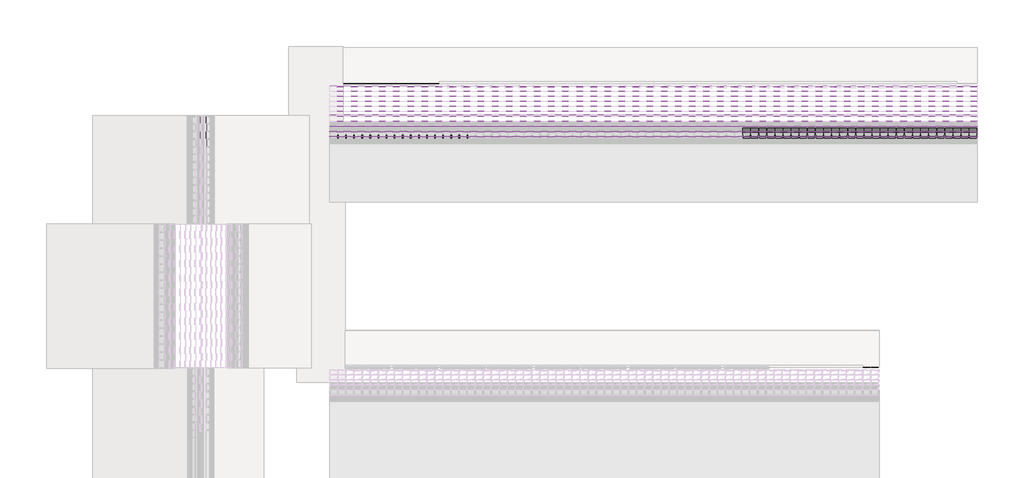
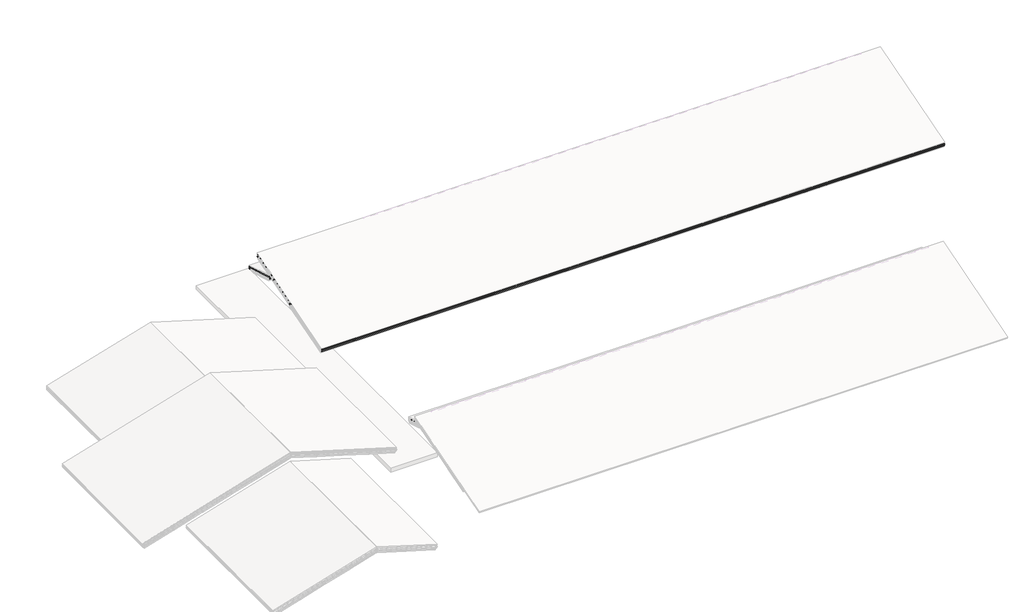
# One storey, part 55 of 57: 63 members, 57 plates.
"""IFC4 building model written with IfcOpenShell, lengths in millimetres."""

from ifc_helpers import new_model, si_unit, origin, place, context, project, spatial, transform, mapped, element, save
from components import rectangular_mullion_f14c8d41, rectangular_mullion_fa7fd158, rectangular_mullion_ffaf8763, rectangular_mullion_8b410596, rectangular_mullion_19773bea, rectangular_mullion_1995deed, rectangular_mullion_4fee4107, rectangular_mullion_38d2f0d7, rectangular_mullion_f6d95a8e, rectangular_mullion_d1940fe2, rectangular_mullion_4fc05f82, rectangular_mullion_caibro_ac6bc083, rectangular_mullion_caibro_dc4aa32d, rectangular_mullion_caibro_51e85f04, rectangular_mullion_caibro_c1b6c281, empty_system_panel_vazio_29520a4c, empty_system_panel_vazio_a4060a7b, empty_system_panel_vazio_0a59da35, empty_system_panel_vazio_61b4e04a

model = new_model("IFC4")

# Units and contexts
model_context = context("Model", 3, world=origin())
ifc_project = project(units=[si_unit("LENGTHUNIT", "METRE", prefix="MILLI")], contexts=[model_context])

# Site, building, storey
site = spatial("IfcSite", under=ifc_project)
building = spatial("IfcBuilding", under=site)
storey = spatial("IfcBuildingStorey", under=building, Name="Nível 2", Elevation=4100.0)

# Members
placement = place(None, origin())
rectangular_mullion_shape = rectangular_mullion_f14c8d41(model_context)
element("IfcMember", 1, ObjectType="Rectangular Mullion : Ripa", at=placement, inside=storey, context=model_context, shape_type="MappedRepresentation", body=[
    mapped(rectangular_mullion_shape, transform((1726.5285525, 32116.1727819, 5061.5247587), x_axis=(0.0, 0.9578262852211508, 0.2873478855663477), y_axis=(0.0, 0.2873478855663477, -0.9578262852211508), z_axis=(-1.0, 0.0, 0.0))),
])
element("IfcMember", 2, ObjectType="Rectangular Mullion : Ripa", at=placement, inside=storey, context=model_context, shape_type="MappedRepresentation", body=[
    mapped(rectangular_mullion_shape, transform((1726.5285525, 32486.5368718, 5172.6339857), x_axis=(0.0, 0.9578262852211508, 0.2873478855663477), y_axis=(0.0, 0.2873478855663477, -0.9578262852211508), z_axis=(-1.0, 0.0, 0.0))),
])
element("IfcMember", 3, ObjectType="Rectangular Mullion : Ripa", at=placement, inside=storey, context=model_context, shape_type="MappedRepresentation", body=[
    mapped(rectangular_mullion_shape, transform((1726.5285525, 32856.9009617, 5283.7432127), x_axis=(0.0, 0.9578262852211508, 0.2873478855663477), y_axis=(0.0, 0.2873478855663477, -0.9578262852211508), z_axis=(-1.0, 0.0, 0.0))),
])
element("IfcMember", 4, ObjectType="Rectangular Mullion : Ripa", at=placement, inside=storey, context=model_context, shape_type="MappedRepresentation", body=[
    mapped(rectangular_mullion_shape, transform((1726.5285525, 33227.2650516, 5394.8524396), x_axis=(0.0, 0.9578262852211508, 0.2873478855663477), y_axis=(0.0, 0.2873478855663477, -0.9578262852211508), z_axis=(-1.0, 0.0, 0.0))),
])
element("IfcMember", 5, ObjectType="Rectangular Mullion : Ripa", at=placement, inside=storey, context=model_context, shape_type="MappedRepresentation", body=[
    mapped(rectangular_mullion_shape, transform((1726.5285525, 33597.6291416, 5505.9616666), x_axis=(0.0, 0.9578262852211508, 0.2873478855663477), y_axis=(0.0, 0.2873478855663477, -0.9578262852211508), z_axis=(-1.0, 0.0, 0.0))),
])
element("IfcMember", 6, ObjectType="Rectangular Mullion : Ripa", at=placement, inside=storey, context=model_context, shape_type="MappedRepresentation", body=[
    mapped(rectangular_mullion_shape, transform((1726.5285525, 33967.9932315, 5617.0708936), x_axis=(0.0, 0.9578262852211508, 0.2873478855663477), y_axis=(0.0, 0.2873478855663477, -0.9578262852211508), z_axis=(-1.0, 0.0, 0.0))),
])
element("IfcMember", 7, ObjectType="Rectangular Mullion : Ripa", at=placement, inside=storey, context=model_context, shape_type="MappedRepresentation", body=[
    mapped(rectangular_mullion_shape, transform((1726.5285525, 34338.3573214, 5728.1801206), x_axis=(0.0, 0.9578262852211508, 0.2873478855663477), y_axis=(0.0, 0.2873478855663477, -0.9578262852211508), z_axis=(-1.0, 0.0, 0.0))),
])
element("IfcMember", 8, ObjectType="Rectangular Mullion : Ripa", at=placement, inside=storey, context=model_context, shape_type="MappedRepresentation", body=[
    mapped(rectangular_mullion_shape, transform((1726.5285525, 34708.7214113, 5839.2893475), x_axis=(0.0, 0.9578262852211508, 0.2873478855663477), y_axis=(0.0, 0.2873478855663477, -0.9578262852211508), z_axis=(-1.0, 0.0, 0.0))),
])
element("IfcMember", 9, ObjectType="Rectangular Mullion : Ripa", at=placement, inside=storey, context=model_context, shape_type="MappedRepresentation", body=[
    mapped(rectangular_mullion_shape, transform((1726.5285525, 35079.0855012, 5950.3985745), x_axis=(0.0, 0.9578262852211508, 0.2873478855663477), y_axis=(0.0, 0.2873478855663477, -0.9578262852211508), z_axis=(-1.0, 0.0, 0.0))),
])
element("IfcMember", 10, ObjectType="Rectangular Mullion : Ripa", at=placement, inside=storey, context=model_context, shape_type="MappedRepresentation", body=[
    mapped(rectangular_mullion_shape, transform((1726.5285525, 35449.4495911, 6061.5078015), x_axis=(0.0, 0.9578262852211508, 0.2873478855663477), y_axis=(0.0, 0.2873478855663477, -0.9578262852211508), z_axis=(-1.0, 0.0, 0.0))),
])
element("IfcMember", 11, ObjectType="Rectangular Mullion : Ripa", at=placement, inside=storey, context=model_context, shape_type="MappedRepresentation", body=[
    mapped(rectangular_mullion_shape, transform((1726.5285525, 35819.813681, 6172.6170285), x_axis=(0.0, 0.9578262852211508, 0.2873478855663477), y_axis=(0.0, 0.2873478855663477, -0.9578262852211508), z_axis=(-1.0, 0.0, 0.0))),
])
element("IfcMember", 12, ObjectType="Rectangular Mullion : Ripa", at=placement, inside=storey, context=model_context, shape_type="MappedRepresentation", body=[
    mapped(rectangular_mullion_shape, transform((1726.5285525, 36190.177771, 6283.7262554), x_axis=(0.0, 0.9578262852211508, 0.2873478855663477), y_axis=(0.0, 0.2873478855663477, -0.9578262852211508), z_axis=(-1.0, 0.0, 0.0))),
])
rectangular_mullion_2_shape = rectangular_mullion_fa7fd158(model_context)
element("IfcMember", 13, ObjectType="Rectangular Mullion : Ripa", at=placement, inside=storey, context=model_context, shape_type="MappedRepresentation", body=[
    mapped(rectangular_mullion_2_shape, transform((49646.9556519, 27994.2764786, 3824.9558677), x_axis=(0.0, -0.9578262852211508, -0.2873478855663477), y_axis=(0.0, 0.2873478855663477, -0.9578262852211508), z_axis=(1.0, 0.0, 0.0))),
])
element("IfcMember", 14, ObjectType="Rectangular Mullion : Ripa", at=placement, inside=storey, context=model_context, shape_type="MappedRepresentation", body=[
    mapped(rectangular_mullion_shape, transform((1726.5285525, 36560.5418609, 6394.8354824), x_axis=(0.0, 0.9578262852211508, 0.2873478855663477), y_axis=(0.0, 0.2873478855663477, -0.9578262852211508), z_axis=(-1.0, 0.0, 0.0))),
])
rectangular_mullion_3_shape = rectangular_mullion_ffaf8763(model_context)
element("IfcMember", 15, ObjectType="Rectangular Mullion : Terça", at=placement, inside=storey, context=model_context, shape_type="MappedRepresentation", body=[
    mapped(rectangular_mullion_3_shape, transform((49646.9556519, 27994.2764786, 3699.6721896), x_axis=(0.0, -0.9578262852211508, -0.2873478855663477), y_axis=(0.0, 0.2873478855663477, -0.9578262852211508), z_axis=(1.0, 0.0, 0.0))),
])
rectangular_mullion_4_shape = rectangular_mullion_8b410596(model_context)
element("IfcMember", 16, ObjectType="Rectangular Mullion : Terça", at=placement, inside=storey, context=model_context, shape_type="MappedRepresentation", body=[
    mapped(rectangular_mullion_4_shape, transform((1726.5285525, 36560.5418609, 6269.5518043), x_axis=(0.0, 0.9578262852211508, 0.2873478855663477), y_axis=(0.0, 0.2873478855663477, -0.9578262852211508), z_axis=(-1.0, 0.0, 0.0))),
])
rectangular_mullion_5_shape = rectangular_mullion_19773bea(model_context)
element("IfcMember", 17, ObjectType="Rectangular Mullion : Terça", at=placement, inside=storey, context=model_context, shape_type="MappedRepresentation", body=[
    mapped(rectangular_mullion_5_shape, transform((1726.5285525, 32277.4091697, 4984.611997), x_axis=(0.0, 0.9578262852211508, 0.2873478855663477), y_axis=(0.0, 0.2873478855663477, -0.9578262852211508), z_axis=(-1.0, 0.0, 0.0))),
])
element("IfcMember", 18, ObjectType="Rectangular Mullion : Terça", at=placement, inside=storey, context=model_context, shape_type="MappedRepresentation", body=[
    mapped(rectangular_mullion_5_shape, transform((1726.5285525, 34404.608121, 5622.7716823), x_axis=(0.0, 0.9578262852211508, 0.2873478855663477), y_axis=(0.0, 0.2873478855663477, -0.9578262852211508), z_axis=(-1.0, 0.0, 0.0))),
])
rectangular_mullion_6_shape = rectangular_mullion_1995deed(model_context)
element("IfcMember", 19, ObjectType="Rectangular Mullion : Ripa", at=placement, inside=storey, context=model_context, shape_type="MappedRepresentation", body=[
    mapped(rectangular_mullion_6_shape, transform((347.7937639, 34350.3088684, 2985.3181378), x_axis=(0.9578262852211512, 0.0, -0.287347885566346), y_axis=(-0.287347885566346, 0.0, -0.9578262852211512), z_axis=(0.0, 1.0, 0.0))),
])
rectangular_mullion_7_shape = rectangular_mullion_4fee4107(model_context)
element("IfcMember", 20, ObjectType="Rectangular Mullion : Terça", at=placement, inside=storey, context=model_context, shape_type="MappedRepresentation", body=[
    mapped(rectangular_mullion_7_shape, transform((347.7937639, 34350.3088684, 2860.0344596), x_axis=(0.9578262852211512, 0.0, -0.287347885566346), y_axis=(-0.287347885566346, 0.0, -0.9578262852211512), z_axis=(0.0, 1.0, 0.0))),
])
rectangular_mullion_8_shape = rectangular_mullion_38d2f0d7(model_context)
element("IfcMember", 21, ObjectType="Rectangular Mullion : Ripa", at=placement, inside=storey, context=model_context, shape_type="MappedRepresentation", body=[
    mapped(rectangular_mullion_8_shape, transform((42376.5296631, 17994.1952417, 3744.0973018), x_axis=(0.0, -0.9578262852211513, 0.2873478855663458), y_axis=(0.0, -0.2873478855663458, -0.9578262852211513), z_axis=(1.0, 0.0, 0.0))),
])
element("IfcMember", 22, ObjectType="Rectangular Mullion : Ripa", at=placement, inside=storey, context=model_context, shape_type="MappedRepresentation", body=[
    mapped(rectangular_mullion_8_shape, transform((42376.5296631, 17623.8303384, 3855.2067728), x_axis=(0.0, -0.9578262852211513, 0.2873478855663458), y_axis=(0.0, -0.2873478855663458, -0.9578262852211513), z_axis=(1.0, 0.0, 0.0))),
])
element("IfcMember", 23, ObjectType="Rectangular Mullion : Ripa", at=placement, inside=storey, context=model_context, shape_type="MappedRepresentation", body=[
    mapped(rectangular_mullion_8_shape, transform((42376.5296631, 17253.4654352, 3966.3162438), x_axis=(0.0, -0.9578262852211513, 0.2873478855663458), y_axis=(0.0, -0.2873478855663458, -0.9578262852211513), z_axis=(1.0, 0.0, 0.0))),
])
element("IfcMember", 24, ObjectType="Rectangular Mullion : Ripa", at=placement, inside=storey, context=model_context, shape_type="MappedRepresentation", body=[
    mapped(rectangular_mullion_8_shape, transform((42376.5296631, 16883.1005319, 4077.4257148), x_axis=(0.0, -0.9578262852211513, 0.2873478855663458), y_axis=(0.0, -0.2873478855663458, -0.9578262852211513), z_axis=(1.0, 0.0, 0.0))),
])
element("IfcMember", 25, ObjectType="Rectangular Mullion : Ripa", at=placement, inside=storey, context=model_context, shape_type="MappedRepresentation", body=[
    mapped(rectangular_mullion_8_shape, transform((42376.5296631, 16512.7356287, 4188.5351857), x_axis=(0.0, -0.9578262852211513, 0.2873478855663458), y_axis=(0.0, -0.2873478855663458, -0.9578262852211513), z_axis=(1.0, 0.0, 0.0))),
])
element("IfcMember", 26, ObjectType="Rectangular Mullion : Ripa", at=placement, inside=storey, context=model_context, shape_type="MappedRepresentation", body=[
    mapped(rectangular_mullion_8_shape, transform((42376.5296631, 16142.3707254, 4299.6446567), x_axis=(0.0, -0.9578262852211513, 0.2873478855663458), y_axis=(0.0, -0.2873478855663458, -0.9578262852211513), z_axis=(1.0, 0.0, 0.0))),
])
rectangular_mullion_9_shape = rectangular_mullion_f6d95a8e(model_context)
element("IfcMember", 27, ObjectType="Rectangular Mullion : Terça", at=placement, inside=storey, context=model_context, shape_type="MappedRepresentation", body=[
    mapped(rectangular_mullion_9_shape, transform((42376.5296631, 17092.6384279, 3892.1683792), x_axis=(0.0, -0.9578262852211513, 0.2873478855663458), y_axis=(0.0, -0.2873478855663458, -0.9578262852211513), z_axis=(1.0, 0.0, 0.0))),
])
rectangular_mullion_10_shape = rectangular_mullion_d1940fe2(model_context)
element("IfcMember", 28, ObjectType="Rectangular Mullion : Ripa", at=placement, inside=storey, context=model_context, shape_type="MappedRepresentation", body=[
    mapped(rectangular_mullion_10_shape, transform((2726.5285525, 39372.3282031, 3330.3181378), x_axis=(0.0, 0.957826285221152, -0.28734788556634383), y_axis=(0.0, -0.28734788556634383, -0.957826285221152), z_axis=(-1.0, 0.0, 0.0))),
])
rectangular_mullion_11_shape = rectangular_mullion_4fc05f82(model_context)
element("IfcMember", 29, ObjectType="Rectangular Mullion : Terça", at=placement, inside=storey, context=model_context, shape_type="MappedRepresentation", body=[
    mapped(rectangular_mullion_11_shape, transform((2726.5285525, 39372.3282031, 3205.0344596), x_axis=(0.0, 0.957826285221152, -0.28734788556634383), y_axis=(0.0, -0.28734788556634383, -0.957826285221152), z_axis=(-1.0, 0.0, 0.0))),
])
rectangular_mullion_caibro_shape = rectangular_mullion_caibro_ac6bc083(model_context)
element("IfcMember", 30, ObjectType="Rectangular Mullion : Caibro", at=placement, inside=storey, context=model_context, shape_type="MappedRepresentation", body=[
    mapped(rectangular_mullion_caibro_shape, transform((2349.9088915, 36560.5418609, 6394.8354824), x_axis=(1.0, 0.0, 0.0), y_axis=(0.0, 0.2873478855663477, -0.9578262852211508), z_axis=(0.0, 0.9578262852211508, 0.2873478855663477))),
])
element("IfcMember", 31, ObjectType="Rectangular Mullion : Caibro", at=placement, inside=storey, context=model_context, shape_type="MappedRepresentation", body=[
    mapped(rectangular_mullion_caibro_shape, transform((2948.2892302, 36560.5418609, 6394.8354824), x_axis=(1.0, 0.0, 0.0), y_axis=(0.0, 0.2873478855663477, -0.9578262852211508), z_axis=(0.0, 0.9578262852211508, 0.2873478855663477))),
])
element("IfcMember", 32, ObjectType="Rectangular Mullion : Caibro", at=placement, inside=storey, context=model_context, shape_type="MappedRepresentation", body=[
    mapped(rectangular_mullion_caibro_shape, transform((3546.669569, 36560.5418609, 6394.8354824), x_axis=(1.0, 0.0, 0.0), y_axis=(0.0, 0.2873478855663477, -0.9578262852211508), z_axis=(0.0, 0.9578262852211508, 0.2873478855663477))),
])
element("IfcMember", 33, ObjectType="Rectangular Mullion : Caibro", at=placement, inside=storey, context=model_context, shape_type="MappedRepresentation", body=[
    mapped(rectangular_mullion_caibro_shape, transform((4145.0499077, 36560.5418609, 6394.8354824), x_axis=(1.0, 0.0, 0.0), y_axis=(0.0, 0.2873478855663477, -0.9578262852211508), z_axis=(0.0, 0.9578262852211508, 0.2873478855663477))),
])
element("IfcMember", 34, ObjectType="Rectangular Mullion : Caibro", at=placement, inside=storey, context=model_context, shape_type="MappedRepresentation", body=[
    mapped(rectangular_mullion_caibro_shape, transform((4743.4302465, 36560.5418609, 6394.8354824), x_axis=(1.0, 0.0, 0.0), y_axis=(0.0, 0.2873478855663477, -0.9578262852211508), z_axis=(0.0, 0.9578262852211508, 0.2873478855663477))),
])
element("IfcMember", 35, ObjectType="Rectangular Mullion : Caibro", at=placement, inside=storey, context=model_context, shape_type="MappedRepresentation", body=[
    mapped(rectangular_mullion_caibro_shape, transform((5341.8105852, 36560.5418609, 6394.8354824), x_axis=(1.0, 0.0, 0.0), y_axis=(0.0, 0.2873478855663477, -0.9578262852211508), z_axis=(0.0, 0.9578262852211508, 0.2873478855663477))),
])
element("IfcMember", 36, ObjectType="Rectangular Mullion : Caibro", at=placement, inside=storey, context=model_context, shape_type="MappedRepresentation", body=[
    mapped(rectangular_mullion_caibro_shape, transform((5940.1909239, 36560.5418609, 6394.8354824), x_axis=(1.0, 0.0, 0.0), y_axis=(0.0, 0.2873478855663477, -0.9578262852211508), z_axis=(0.0, 0.9578262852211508, 0.2873478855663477))),
])
element("IfcMember", 37, ObjectType="Rectangular Mullion : Caibro", at=placement, inside=storey, context=model_context, shape_type="MappedRepresentation", body=[
    mapped(rectangular_mullion_caibro_shape, transform((6538.5712627, 36560.5418609, 6394.8354824), x_axis=(1.0, 0.0, 0.0), y_axis=(0.0, 0.2873478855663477, -0.9578262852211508), z_axis=(0.0, 0.9578262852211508, 0.2873478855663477))),
])
element("IfcMember", 38, ObjectType="Rectangular Mullion : Caibro", at=placement, inside=storey, context=model_context, shape_type="MappedRepresentation", body=[
    mapped(rectangular_mullion_caibro_shape, transform((7136.9516014, 36560.5418609, 6394.8354824), x_axis=(1.0, 0.0, 0.0), y_axis=(0.0, 0.2873478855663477, -0.9578262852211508), z_axis=(0.0, 0.9578262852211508, 0.2873478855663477))),
])
element("IfcMember", 39, ObjectType="Rectangular Mullion : Caibro", at=placement, inside=storey, context=model_context, shape_type="MappedRepresentation", body=[
    mapped(rectangular_mullion_caibro_shape, transform((7735.3319401, 36560.5418609, 6394.8354824), x_axis=(1.0, 0.0, 0.0), y_axis=(0.0, 0.2873478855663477, -0.9578262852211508), z_axis=(0.0, 0.9578262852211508, 0.2873478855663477))),
])
element("IfcMember", 40, ObjectType="Rectangular Mullion : Caibro", at=placement, inside=storey, context=model_context, shape_type="MappedRepresentation", body=[
    mapped(rectangular_mullion_caibro_shape, transform((8333.7122789, 36560.5418609, 6394.8354824), x_axis=(1.0, 0.0, 0.0), y_axis=(0.0, 0.2873478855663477, -0.9578262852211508), z_axis=(0.0, 0.9578262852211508, 0.2873478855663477))),
])
element("IfcMember", 41, ObjectType="Rectangular Mullion : Caibro", at=placement, inside=storey, context=model_context, shape_type="MappedRepresentation", body=[
    mapped(rectangular_mullion_caibro_shape, transform((8932.0926176, 36560.5418609, 6394.8354824), x_axis=(1.0, 0.0, 0.0), y_axis=(0.0, 0.2873478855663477, -0.9578262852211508), z_axis=(0.0, 0.9578262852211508, 0.2873478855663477))),
])
element("IfcMember", 42, ObjectType="Rectangular Mullion : Caibro", at=placement, inside=storey, context=model_context, shape_type="MappedRepresentation", body=[
    mapped(rectangular_mullion_caibro_shape, transform((9530.4729563, 36560.5418609, 6394.8354824), x_axis=(1.0, 0.0, 0.0), y_axis=(0.0, 0.2873478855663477, -0.9578262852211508), z_axis=(0.0, 0.9578262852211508, 0.2873478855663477))),
])
element("IfcMember", 43, ObjectType="Rectangular Mullion : Caibro", at=placement, inside=storey, context=model_context, shape_type="MappedRepresentation", body=[
    mapped(rectangular_mullion_caibro_shape, transform((10128.8532951, 36560.5418609, 6394.8354824), x_axis=(1.0, 0.0, 0.0), y_axis=(0.0, 0.2873478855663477, -0.9578262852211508), z_axis=(0.0, 0.9578262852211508, 0.2873478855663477))),
])
element("IfcMember", 44, ObjectType="Rectangular Mullion : Caibro", at=placement, inside=storey, context=model_context, shape_type="MappedRepresentation", body=[
    mapped(rectangular_mullion_caibro_shape, transform((10727.2336338, 36560.5418609, 6394.8354824), x_axis=(1.0, 0.0, 0.0), y_axis=(0.0, 0.2873478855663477, -0.9578262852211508), z_axis=(0.0, 0.9578262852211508, 0.2873478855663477))),
])
element("IfcMember", 45, ObjectType="Rectangular Mullion : Caibro", at=placement, inside=storey, context=model_context, shape_type="MappedRepresentation", body=[
    mapped(rectangular_mullion_caibro_shape, transform((11325.6139725, 36560.5418609, 6394.8354824), x_axis=(1.0, 0.0, 0.0), y_axis=(0.0, 0.2873478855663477, -0.9578262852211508), z_axis=(0.0, 0.9578262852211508, 0.2873478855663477))),
])
element("IfcMember", 46, ObjectType="Rectangular Mullion : Caibro", at=placement, inside=storey, context=model_context, shape_type="MappedRepresentation", body=[
    mapped(rectangular_mullion_caibro_shape, transform((11923.9943113, 36560.5418609, 6394.8354824), x_axis=(1.0, 0.0, 0.0), y_axis=(0.0, 0.2873478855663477, -0.9578262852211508), z_axis=(0.0, 0.9578262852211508, 0.2873478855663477))),
])
rectangular_mullion_caibro_2_shape = rectangular_mullion_caibro_dc4aa32d(model_context)
element("IfcMember", 47, ObjectType="Rectangular Mullion : Caibro", at=placement, inside=storey, context=model_context, shape_type="MappedRepresentation", body=[
    mapped(rectangular_mullion_caibro_2_shape, transform((2726.5285525, 36776.0629917, 4109.1977012), x_axis=(-1.0, 0.0, 0.0), y_axis=(0.0, -0.2873478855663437, -0.9578262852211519), z_axis=(0.0, -0.9578262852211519, 0.2873478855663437))),
])
rectangular_mullion_caibro_3_shape = rectangular_mullion_caibro_51e85f04(model_context)
element("IfcMember", 48, ObjectType="Rectangular Mullion : Caibro", at=placement, inside=storey, context=model_context, shape_type="MappedRepresentation", body=[
    mapped(rectangular_mullion_caibro_3_shape, transform((11650.9767361, 36776.0629917, 4109.1977012), x_axis=(-1.0, 0.0, 0.0), y_axis=(0.0, -0.2873478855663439, -0.9578262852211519), z_axis=(0.0, -0.9578262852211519, 0.2873478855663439))),
])
element("IfcMember", 49, ObjectType="Rectangular Mullion : Caibro", at=placement, inside=storey, context=model_context, shape_type="MappedRepresentation", body=[
    mapped(rectangular_mullion_caibro_3_shape, transform((11057.6801905, 36776.0629917, 4109.1977012), x_axis=(-1.0, 0.0, 0.0), y_axis=(0.0, -0.2873478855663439, -0.9578262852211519), z_axis=(0.0, -0.9578262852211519, 0.2873478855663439))),
])
element("IfcMember", 50, ObjectType="Rectangular Mullion : Caibro", at=placement, inside=storey, context=model_context, shape_type="MappedRepresentation", body=[
    mapped(rectangular_mullion_caibro_3_shape, transform((10464.383645, 36776.0629917, 4109.1977012), x_axis=(-1.0, 0.0, 0.0), y_axis=(0.0, -0.2873478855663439, -0.9578262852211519), z_axis=(0.0, -0.9578262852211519, 0.2873478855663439))),
])
element("IfcMember", 51, ObjectType="Rectangular Mullion : Caibro", at=placement, inside=storey, context=model_context, shape_type="MappedRepresentation", body=[
    mapped(rectangular_mullion_caibro_3_shape, transform((9871.0870994, 36776.0629917, 4109.1977012), x_axis=(-1.0, 0.0, 0.0), y_axis=(0.0, -0.2873478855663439, -0.9578262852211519), z_axis=(0.0, -0.9578262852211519, 0.2873478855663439))),
])
element("IfcMember", 52, ObjectType="Rectangular Mullion : Caibro", at=placement, inside=storey, context=model_context, shape_type="MappedRepresentation", body=[
    mapped(rectangular_mullion_caibro_3_shape, transform((9277.7905539, 36776.0629917, 4109.1977012), x_axis=(-1.0, 0.0, 0.0), y_axis=(0.0, -0.2873478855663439, -0.9578262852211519), z_axis=(0.0, -0.9578262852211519, 0.2873478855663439))),
])
element("IfcMember", 53, ObjectType="Rectangular Mullion : Caibro", at=placement, inside=storey, context=model_context, shape_type="MappedRepresentation", body=[
    mapped(rectangular_mullion_caibro_3_shape, transform((8684.4940083, 36776.0629917, 4109.1977012), x_axis=(-1.0, 0.0, 0.0), y_axis=(0.0, -0.2873478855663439, -0.9578262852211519), z_axis=(0.0, -0.9578262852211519, 0.2873478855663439))),
])
element("IfcMember", 54, ObjectType="Rectangular Mullion : Caibro", at=placement, inside=storey, context=model_context, shape_type="MappedRepresentation", body=[
    mapped(rectangular_mullion_caibro_3_shape, transform((8091.1974628, 36776.0629917, 4109.1977012), x_axis=(-1.0, 0.0, 0.0), y_axis=(0.0, -0.2873478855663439, -0.9578262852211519), z_axis=(0.0, -0.9578262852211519, 0.2873478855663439))),
])
element("IfcMember", 55, ObjectType="Rectangular Mullion : Caibro", at=placement, inside=storey, context=model_context, shape_type="MappedRepresentation", body=[
    mapped(rectangular_mullion_caibro_3_shape, transform((7497.9009172, 36776.0629917, 4109.1977012), x_axis=(-1.0, 0.0, 0.0), y_axis=(0.0, -0.2873478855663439, -0.9578262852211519), z_axis=(0.0, -0.9578262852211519, 0.2873478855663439))),
])
element("IfcMember", 56, ObjectType="Rectangular Mullion : Caibro", at=placement, inside=storey, context=model_context, shape_type="MappedRepresentation", body=[
    mapped(rectangular_mullion_caibro_3_shape, transform((6904.6043717, 36776.0629917, 4109.1977012), x_axis=(-1.0, 0.0, 0.0), y_axis=(0.0, -0.2873478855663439, -0.9578262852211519), z_axis=(0.0, -0.9578262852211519, 0.2873478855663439))),
])
element("IfcMember", 57, ObjectType="Rectangular Mullion : Caibro", at=placement, inside=storey, context=model_context, shape_type="MappedRepresentation", body=[
    mapped(rectangular_mullion_caibro_3_shape, transform((6311.3078261, 36776.0629917, 4109.1977012), x_axis=(-1.0, 0.0, 0.0), y_axis=(0.0, -0.2873478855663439, -0.9578262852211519), z_axis=(0.0, -0.9578262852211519, 0.2873478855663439))),
])
element("IfcMember", 58, ObjectType="Rectangular Mullion : Caibro", at=placement, inside=storey, context=model_context, shape_type="MappedRepresentation", body=[
    mapped(rectangular_mullion_caibro_3_shape, transform((5718.0112805, 36776.0629917, 4109.1977012), x_axis=(-1.0, 0.0, 0.0), y_axis=(0.0, -0.2873478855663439, -0.9578262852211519), z_axis=(0.0, -0.9578262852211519, 0.2873478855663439))),
])
element("IfcMember", 59, ObjectType="Rectangular Mullion : Caibro", at=placement, inside=storey, context=model_context, shape_type="MappedRepresentation", body=[
    mapped(rectangular_mullion_caibro_3_shape, transform((5124.714735, 36776.0629917, 4109.1977012), x_axis=(-1.0, 0.0, 0.0), y_axis=(0.0, -0.2873478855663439, -0.9578262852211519), z_axis=(0.0, -0.9578262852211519, 0.2873478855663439))),
])
element("IfcMember", 60, ObjectType="Rectangular Mullion : Caibro", at=placement, inside=storey, context=model_context, shape_type="MappedRepresentation", body=[
    mapped(rectangular_mullion_caibro_3_shape, transform((4531.4181894, 36776.0629917, 4109.1977012), x_axis=(-1.0, 0.0, 0.0), y_axis=(0.0, -0.2873478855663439, -0.9578262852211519), z_axis=(0.0, -0.9578262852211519, 0.2873478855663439))),
])
element("IfcMember", 61, ObjectType="Rectangular Mullion : Caibro", at=placement, inside=storey, context=model_context, shape_type="MappedRepresentation", body=[
    mapped(rectangular_mullion_caibro_3_shape, transform((3938.1216439, 36776.0629917, 4109.1977012), x_axis=(-1.0, 0.0, 0.0), y_axis=(0.0, -0.2873478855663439, -0.9578262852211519), z_axis=(0.0, -0.9578262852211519, 0.2873478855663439))),
])
element("IfcMember", 62, ObjectType="Rectangular Mullion : Caibro", at=placement, inside=storey, context=model_context, shape_type="MappedRepresentation", body=[
    mapped(rectangular_mullion_caibro_3_shape, transform((3344.8250983, 36776.0629917, 4109.1977012), x_axis=(-1.0, 0.0, 0.0), y_axis=(0.0, -0.2873478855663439, -0.9578262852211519), z_axis=(0.0, -0.9578262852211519, 0.2873478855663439))),
])
rectangular_mullion_caibro_4_shape = rectangular_mullion_caibro_c1b6c281(model_context)
element("IfcMember", 63, ObjectType="Rectangular Mullion : Caibro", at=placement, inside=storey, context=model_context, shape_type="MappedRepresentation", body=[
    mapped(rectangular_mullion_caibro_4_shape, transform((42376.5296631, 18413.2710336, 3618.3745643), x_axis=(1.0, 0.0, 0.0), y_axis=(0.0, -0.28734788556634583, -0.9578262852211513), z_axis=(0.0, 0.9578262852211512, -0.2873478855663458))),
])

# Plates
empty_system_panel_vazio_shape = empty_system_panel_vazio_29520a4c(model_context)
element("IfcPlate", 64, ObjectType="Empty System Panel : Vazio", at=placement, inside=storey, context=model_context, shape_type="MappedRepresentation", body=[
    mapped(empty_system_panel_vazio_shape, transform((32568.1159976, 27994.2764786, 3824.9558677), x_axis=(1.0, 0.0, 0.0), y_axis=(0.0, 0.2873478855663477, -0.9578262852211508), z_axis=(0.0, 0.9578262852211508, 0.2873478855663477))),
])
element("IfcPlate", 65, ObjectType="Empty System Panel : Vazio", at=placement, inside=storey, context=model_context, shape_type="MappedRepresentation", body=[
    mapped(empty_system_panel_vazio_shape, transform((33166.4963363, 27994.2764786, 3824.9558677), x_axis=(1.0, 0.0, 0.0), y_axis=(0.0, 0.2873478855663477, -0.9578262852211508), z_axis=(0.0, 0.9578262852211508, 0.2873478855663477))),
])
element("IfcPlate", 66, ObjectType="Empty System Panel : Vazio", at=placement, inside=storey, context=model_context, shape_type="MappedRepresentation", body=[
    mapped(empty_system_panel_vazio_shape, transform((33764.8766751, 27994.2764786, 3824.9558677), x_axis=(1.0, 0.0, 0.0), y_axis=(0.0, 0.2873478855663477, -0.9578262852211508), z_axis=(0.0, 0.9578262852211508, 0.2873478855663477))),
])
element("IfcPlate", 67, ObjectType="Empty System Panel : Vazio", at=placement, inside=storey, context=model_context, shape_type="MappedRepresentation", body=[
    mapped(empty_system_panel_vazio_shape, transform((34363.2570138, 27994.2764786, 3824.9558677), x_axis=(1.0, 0.0, 0.0), y_axis=(0.0, 0.2873478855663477, -0.9578262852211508), z_axis=(0.0, 0.9578262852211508, 0.2873478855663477))),
])
element("IfcPlate", 68, ObjectType="Empty System Panel : Vazio", at=placement, inside=storey, context=model_context, shape_type="MappedRepresentation", body=[
    mapped(empty_system_panel_vazio_shape, transform((34961.6373526, 27994.2764786, 3824.9558677), x_axis=(1.0, 0.0, 0.0), y_axis=(0.0, 0.2873478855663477, -0.9578262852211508), z_axis=(0.0, 0.9578262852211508, 0.2873478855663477))),
])
element("IfcPlate", 69, ObjectType="Empty System Panel : Vazio", at=placement, inside=storey, context=model_context, shape_type="MappedRepresentation", body=[
    mapped(empty_system_panel_vazio_shape, transform((35560.0176913, 27994.2764786, 3824.9558677), x_axis=(1.0, 0.0, 0.0), y_axis=(0.0, 0.2873478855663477, -0.9578262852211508), z_axis=(0.0, 0.9578262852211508, 0.2873478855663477))),
])
element("IfcPlate", 70, ObjectType="Empty System Panel : Vazio", at=placement, inside=storey, context=model_context, shape_type="MappedRepresentation", body=[
    mapped(empty_system_panel_vazio_shape, transform((36158.39803, 27994.2764786, 3824.9558677), x_axis=(1.0, 0.0, 0.0), y_axis=(0.0, 0.2873478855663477, -0.9578262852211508), z_axis=(0.0, 0.9578262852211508, 0.2873478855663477))),
])
element("IfcPlate", 71, ObjectType="Empty System Panel : Vazio", at=placement, inside=storey, context=model_context, shape_type="MappedRepresentation", body=[
    mapped(empty_system_panel_vazio_shape, transform((36756.7783688, 27994.2764786, 3824.9558677), x_axis=(1.0, 0.0, 0.0), y_axis=(0.0, 0.2873478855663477, -0.9578262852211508), z_axis=(0.0, 0.9578262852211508, 0.2873478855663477))),
])
element("IfcPlate", 72, ObjectType="Empty System Panel : Vazio", at=placement, inside=storey, context=model_context, shape_type="MappedRepresentation", body=[
    mapped(empty_system_panel_vazio_shape, transform((37355.1587075, 27994.2764786, 3824.9558677), x_axis=(1.0, 0.0, 0.0), y_axis=(0.0, 0.2873478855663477, -0.9578262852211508), z_axis=(0.0, 0.9578262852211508, 0.2873478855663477))),
])
element("IfcPlate", 73, ObjectType="Empty System Panel : Vazio", at=placement, inside=storey, context=model_context, shape_type="MappedRepresentation", body=[
    mapped(empty_system_panel_vazio_shape, transform((37953.5390462, 27994.2764786, 3824.9558677), x_axis=(1.0, 0.0, 0.0), y_axis=(0.0, 0.2873478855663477, -0.9578262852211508), z_axis=(0.0, 0.9578262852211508, 0.2873478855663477))),
])
element("IfcPlate", 74, ObjectType="Empty System Panel : Vazio", at=placement, inside=storey, context=model_context, shape_type="MappedRepresentation", body=[
    mapped(empty_system_panel_vazio_shape, transform((38551.919385, 27994.2764786, 3824.9558677), x_axis=(1.0, 0.0, 0.0), y_axis=(0.0, 0.2873478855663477, -0.9578262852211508), z_axis=(0.0, 0.9578262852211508, 0.2873478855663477))),
])
element("IfcPlate", 75, ObjectType="Empty System Panel : Vazio", at=placement, inside=storey, context=model_context, shape_type="MappedRepresentation", body=[
    mapped(empty_system_panel_vazio_shape, transform((39150.2997237, 27994.2764786, 3824.9558677), x_axis=(1.0, 0.0, 0.0), y_axis=(0.0, 0.2873478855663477, -0.9578262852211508), z_axis=(0.0, 0.9578262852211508, 0.2873478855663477))),
])
element("IfcPlate", 76, ObjectType="Empty System Panel : Vazio", at=placement, inside=storey, context=model_context, shape_type="MappedRepresentation", body=[
    mapped(empty_system_panel_vazio_shape, transform((39748.6800624, 27994.2764786, 3824.9558677), x_axis=(1.0, 0.0, 0.0), y_axis=(0.0, 0.2873478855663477, -0.9578262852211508), z_axis=(0.0, 0.9578262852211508, 0.2873478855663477))),
])
element("IfcPlate", 77, ObjectType="Empty System Panel : Vazio", at=placement, inside=storey, context=model_context, shape_type="MappedRepresentation", body=[
    mapped(empty_system_panel_vazio_shape, transform((40347.0604012, 27994.2764786, 3824.9558677), x_axis=(1.0, 0.0, 0.0), y_axis=(0.0, 0.2873478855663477, -0.9578262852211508), z_axis=(0.0, 0.9578262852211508, 0.2873478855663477))),
])
element("IfcPlate", 78, ObjectType="Empty System Panel : Vazio", at=placement, inside=storey, context=model_context, shape_type="MappedRepresentation", body=[
    mapped(empty_system_panel_vazio_shape, transform((40945.4407399, 27994.2764786, 3824.9558677), x_axis=(1.0, 0.0, 0.0), y_axis=(0.0, 0.2873478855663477, -0.9578262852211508), z_axis=(0.0, 0.9578262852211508, 0.2873478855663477))),
])
element("IfcPlate", 79, ObjectType="Empty System Panel : Vazio", at=placement, inside=storey, context=model_context, shape_type="MappedRepresentation", body=[
    mapped(empty_system_panel_vazio_shape, transform((41543.8210786, 27994.2764786, 3824.9558677), x_axis=(1.0, 0.0, 0.0), y_axis=(0.0, 0.2873478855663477, -0.9578262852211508), z_axis=(0.0, 0.9578262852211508, 0.2873478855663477))),
])
element("IfcPlate", 80, ObjectType="Empty System Panel : Vazio", at=placement, inside=storey, context=model_context, shape_type="MappedRepresentation", body=[
    mapped(empty_system_panel_vazio_shape, transform((42142.2014174, 27994.2764786, 3824.9558677), x_axis=(1.0, 0.0, 0.0), y_axis=(0.0, 0.2873478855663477, -0.9578262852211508), z_axis=(0.0, 0.9578262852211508, 0.2873478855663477))),
])
element("IfcPlate", 81, ObjectType="Empty System Panel : Vazio", at=placement, inside=storey, context=model_context, shape_type="MappedRepresentation", body=[
    mapped(empty_system_panel_vazio_shape, transform((42740.5817561, 27994.2764786, 3824.9558677), x_axis=(1.0, 0.0, 0.0), y_axis=(0.0, 0.2873478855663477, -0.9578262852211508), z_axis=(0.0, 0.9578262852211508, 0.2873478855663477))),
])
element("IfcPlate", 82, ObjectType="Empty System Panel : Vazio", at=placement, inside=storey, context=model_context, shape_type="MappedRepresentation", body=[
    mapped(empty_system_panel_vazio_shape, transform((43338.9620948, 27994.2764786, 3824.9558677), x_axis=(1.0, 0.0, 0.0), y_axis=(0.0, 0.2873478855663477, -0.9578262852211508), z_axis=(0.0, 0.9578262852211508, 0.2873478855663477))),
])
element("IfcPlate", 83, ObjectType="Empty System Panel : Vazio", at=placement, inside=storey, context=model_context, shape_type="MappedRepresentation", body=[
    mapped(empty_system_panel_vazio_shape, transform((43937.3424336, 27994.2764786, 3824.9558677), x_axis=(1.0, 0.0, 0.0), y_axis=(0.0, 0.2873478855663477, -0.9578262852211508), z_axis=(0.0, 0.9578262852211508, 0.2873478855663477))),
])
element("IfcPlate", 84, ObjectType="Empty System Panel : Vazio", at=placement, inside=storey, context=model_context, shape_type="MappedRepresentation", body=[
    mapped(empty_system_panel_vazio_shape, transform((44535.7227723, 27994.2764786, 3824.9558677), x_axis=(1.0, 0.0, 0.0), y_axis=(0.0, 0.2873478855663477, -0.9578262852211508), z_axis=(0.0, 0.9578262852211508, 0.2873478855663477))),
])
element("IfcPlate", 85, ObjectType="Empty System Panel : Vazio", at=placement, inside=storey, context=model_context, shape_type="MappedRepresentation", body=[
    mapped(empty_system_panel_vazio_shape, transform((45134.103111, 27994.2764786, 3824.9558677), x_axis=(1.0, 0.0, 0.0), y_axis=(0.0, 0.2873478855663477, -0.9578262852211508), z_axis=(0.0, 0.9578262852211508, 0.2873478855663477))),
])
element("IfcPlate", 86, ObjectType="Empty System Panel : Vazio", at=placement, inside=storey, context=model_context, shape_type="MappedRepresentation", body=[
    mapped(empty_system_panel_vazio_shape, transform((45732.4834498, 27994.2764786, 3824.9558677), x_axis=(1.0, 0.0, 0.0), y_axis=(0.0, 0.2873478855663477, -0.9578262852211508), z_axis=(0.0, 0.9578262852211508, 0.2873478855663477))),
])
element("IfcPlate", 87, ObjectType="Empty System Panel : Vazio", at=placement, inside=storey, context=model_context, shape_type="MappedRepresentation", body=[
    mapped(empty_system_panel_vazio_shape, transform((46330.8637885, 27994.2764786, 3824.9558677), x_axis=(1.0, 0.0, 0.0), y_axis=(0.0, 0.2873478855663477, -0.9578262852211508), z_axis=(0.0, 0.9578262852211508, 0.2873478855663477))),
])
element("IfcPlate", 88, ObjectType="Empty System Panel : Vazio", at=placement, inside=storey, context=model_context, shape_type="MappedRepresentation", body=[
    mapped(empty_system_panel_vazio_shape, transform((46929.2441272, 27994.2764786, 3824.9558677), x_axis=(1.0, 0.0, 0.0), y_axis=(0.0, 0.2873478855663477, -0.9578262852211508), z_axis=(0.0, 0.9578262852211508, 0.2873478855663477))),
])
element("IfcPlate", 89, ObjectType="Empty System Panel : Vazio", at=placement, inside=storey, context=model_context, shape_type="MappedRepresentation", body=[
    mapped(empty_system_panel_vazio_shape, transform((47527.624466, 27994.2764786, 3824.9558677), x_axis=(1.0, 0.0, 0.0), y_axis=(0.0, 0.2873478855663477, -0.9578262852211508), z_axis=(0.0, 0.9578262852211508, 0.2873478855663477))),
])
element("IfcPlate", 90, ObjectType="Empty System Panel : Vazio", at=placement, inside=storey, context=model_context, shape_type="MappedRepresentation", body=[
    mapped(empty_system_panel_vazio_shape, transform((48126.0048047, 27994.2764786, 3824.9558677), x_axis=(1.0, 0.0, 0.0), y_axis=(0.0, 0.2873478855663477, -0.9578262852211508), z_axis=(0.0, 0.9578262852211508, 0.2873478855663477))),
])
element("IfcPlate", 91, ObjectType="Empty System Panel : Vazio", at=placement, inside=storey, context=model_context, shape_type="MappedRepresentation", body=[
    mapped(empty_system_panel_vazio_shape, transform((48724.3851434, 27994.2764786, 3824.9558677), x_axis=(1.0, 0.0, 0.0), y_axis=(0.0, 0.2873478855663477, -0.9578262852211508), z_axis=(0.0, 0.9578262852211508, 0.2873478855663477))),
])
element("IfcPlate", 92, ObjectType="Empty System Panel : Vazio", at=placement, inside=storey, context=model_context, shape_type="MappedRepresentation", body=[
    mapped(empty_system_panel_vazio_shape, transform((49322.7654823, 27994.2764786, 3824.9558677), x_axis=(1.0, 0.0, 0.0), y_axis=(0.0, 0.2873478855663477, -0.9578262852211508), z_axis=(0.0, 0.9578262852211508, 0.2873478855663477))),
])
empty_system_panel_vazio_2_shape = empty_system_panel_vazio_a4060a7b(model_context)
element("IfcPlate", 93, ObjectType="Empty System Panel : Vazio", at=placement, inside=storey, context=model_context, shape_type="MappedRepresentation", body=[
    mapped(empty_system_panel_vazio_2_shape, transform((347.7937639, 32337.8088682, 2985.3181378), x_axis=(0.0, 1.0, 0.0), y_axis=(-0.287347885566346, 0.0, -0.9578262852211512), z_axis=(-0.9578262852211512, 0.0, 0.287347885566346))),
])
element("IfcPlate", 94, ObjectType="Empty System Panel : Vazio", at=placement, inside=storey, context=model_context, shape_type="MappedRepresentation", body=[
    mapped(empty_system_panel_vazio_2_shape, transform((347.7937639, 32905.666011, 2985.3181378), x_axis=(0.0, 1.0, 0.0), y_axis=(-0.287347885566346, 0.0, -0.9578262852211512), z_axis=(-0.9578262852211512, 0.0, 0.287347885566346))),
])
element("IfcPlate", 95, ObjectType="Empty System Panel : Vazio", at=placement, inside=storey, context=model_context, shape_type="MappedRepresentation", body=[
    mapped(empty_system_panel_vazio_2_shape, transform((347.7937639, 33473.5231538, 2985.3181378), x_axis=(0.0, 1.0, 0.0), y_axis=(-0.287347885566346, 0.0, -0.9578262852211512), z_axis=(-0.9578262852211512, 0.0, 0.287347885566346))),
])
element("IfcPlate", 96, ObjectType="Empty System Panel : Vazio", at=placement, inside=storey, context=model_context, shape_type="MappedRepresentation", body=[
    mapped(empty_system_panel_vazio_2_shape, transform((347.7937639, 34041.3802968, 2985.3181378), x_axis=(0.0, 1.0, 0.0), y_axis=(-0.287347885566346, 0.0, -0.9578262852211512), z_axis=(-0.9578262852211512, 0.0, 0.287347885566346))),
])
empty_system_panel_vazio_3_shape = empty_system_panel_vazio_0a59da35(model_context)
element("IfcPlate", 97, ObjectType="Empty System Panel : Vazio", at=placement, inside=storey, context=model_context, shape_type="MappedRepresentation", body=[
    mapped(empty_system_panel_vazio_3_shape, transform((42052.8554121, 18413.2710336, 3618.3745643), x_axis=(-1.0, 0.0, 0.0), y_axis=(0.0, -0.2873478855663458, -0.9578262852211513), z_axis=(0.0, -0.9578262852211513, 0.2873478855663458))),
])
element("IfcPlate", 98, ObjectType="Empty System Panel : Vazio", at=placement, inside=storey, context=model_context, shape_type="MappedRepresentation", body=[
    mapped(empty_system_panel_vazio_3_shape, transform((41455.5069103, 18413.2710336, 3618.3745643), x_axis=(-1.0, 0.0, 0.0), y_axis=(0.0, -0.2873478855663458, -0.9578262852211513), z_axis=(0.0, -0.9578262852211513, 0.2873478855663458))),
])
element("IfcPlate", 99, ObjectType="Empty System Panel : Vazio", at=placement, inside=storey, context=model_context, shape_type="MappedRepresentation", body=[
    mapped(empty_system_panel_vazio_3_shape, transform((40858.1584086, 18413.2710336, 3618.3745643), x_axis=(-1.0, 0.0, 0.0), y_axis=(0.0, -0.2873478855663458, -0.9578262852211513), z_axis=(0.0, -0.9578262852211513, 0.2873478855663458))),
])
element("IfcPlate", 100, ObjectType="Empty System Panel : Vazio", at=placement, inside=storey, context=model_context, shape_type="MappedRepresentation", body=[
    mapped(empty_system_panel_vazio_3_shape, transform((40260.8099069, 18413.2710336, 3618.3745643), x_axis=(-1.0, 0.0, 0.0), y_axis=(0.0, -0.2873478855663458, -0.9578262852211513), z_axis=(0.0, -0.9578262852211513, 0.2873478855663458))),
])
element("IfcPlate", 101, ObjectType="Empty System Panel : Vazio", at=placement, inside=storey, context=model_context, shape_type="MappedRepresentation", body=[
    mapped(empty_system_panel_vazio_3_shape, transform((39663.4614053, 18413.2710336, 3618.3745643), x_axis=(-1.0, 0.0, 0.0), y_axis=(0.0, -0.2873478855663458, -0.9578262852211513), z_axis=(0.0, -0.9578262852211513, 0.2873478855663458))),
])
element("IfcPlate", 102, ObjectType="Empty System Panel : Vazio", at=placement, inside=storey, context=model_context, shape_type="MappedRepresentation", body=[
    mapped(empty_system_panel_vazio_3_shape, transform((39066.1129036, 18413.2710336, 3618.3745643), x_axis=(-1.0, 0.0, 0.0), y_axis=(0.0, -0.2873478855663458, -0.9578262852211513), z_axis=(0.0, -0.9578262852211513, 0.2873478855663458))),
])
element("IfcPlate", 103, ObjectType="Empty System Panel : Vazio", at=placement, inside=storey, context=model_context, shape_type="MappedRepresentation", body=[
    mapped(empty_system_panel_vazio_3_shape, transform((38468.7644019, 18413.2710336, 3618.3745643), x_axis=(-1.0, 0.0, 0.0), y_axis=(0.0, -0.2873478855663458, -0.9578262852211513), z_axis=(0.0, -0.9578262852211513, 0.2873478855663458))),
])
element("IfcPlate", 104, ObjectType="Empty System Panel : Vazio", at=placement, inside=storey, context=model_context, shape_type="MappedRepresentation", body=[
    mapped(empty_system_panel_vazio_3_shape, transform((37274.0673986, 18413.2710336, 3618.3745643), x_axis=(-1.0, 0.0, 0.0), y_axis=(0.0, -0.2873478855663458, -0.9578262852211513), z_axis=(0.0, -0.9578262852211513, 0.2873478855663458))),
])
empty_system_panel_vazio_4_shape = empty_system_panel_vazio_61b4e04a(model_context)
element("IfcPlate", 105, ObjectType="Empty System Panel : Vazio", at=placement, inside=storey, context=model_context, shape_type="MappedRepresentation", body=[
    mapped(empty_system_panel_vazio_4_shape, transform((11947.6250089, 39372.3282031, 3330.3181378), x_axis=(-1.0, 0.0, 0.0), y_axis=(0.0, -0.28734788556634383, -0.957826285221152), z_axis=(0.0, -0.957826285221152, 0.28734788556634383))),
])
element("IfcPlate", 106, ObjectType="Empty System Panel : Vazio", at=placement, inside=storey, context=model_context, shape_type="MappedRepresentation", body=[
    mapped(empty_system_panel_vazio_4_shape, transform((11354.3284633, 39372.3282031, 3330.3181378), x_axis=(-1.0, 0.0, 0.0), y_axis=(0.0, -0.28734788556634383, -0.957826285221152), z_axis=(0.0, -0.957826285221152, 0.28734788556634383))),
])
element("IfcPlate", 107, ObjectType="Empty System Panel : Vazio", at=placement, inside=storey, context=model_context, shape_type="MappedRepresentation", body=[
    mapped(empty_system_panel_vazio_4_shape, transform((10761.0319178, 39372.3282031, 3330.3181378), x_axis=(-1.0, 0.0, 0.0), y_axis=(0.0, -0.28734788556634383, -0.957826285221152), z_axis=(0.0, -0.957826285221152, 0.28734788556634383))),
])
element("IfcPlate", 108, ObjectType="Empty System Panel : Vazio", at=placement, inside=storey, context=model_context, shape_type="MappedRepresentation", body=[
    mapped(empty_system_panel_vazio_4_shape, transform((10167.7353722, 39372.3282031, 3330.3181378), x_axis=(-1.0, 0.0, 0.0), y_axis=(0.0, -0.28734788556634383, -0.957826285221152), z_axis=(0.0, -0.957826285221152, 0.28734788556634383))),
])
element("IfcPlate", 109, ObjectType="Empty System Panel : Vazio", at=placement, inside=storey, context=model_context, shape_type="MappedRepresentation", body=[
    mapped(empty_system_panel_vazio_4_shape, transform((9574.4388266, 39372.3282031, 3330.3181378), x_axis=(-1.0, 0.0, 0.0), y_axis=(0.0, -0.28734788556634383, -0.957826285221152), z_axis=(0.0, -0.957826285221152, 0.28734788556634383))),
])
element("IfcPlate", 110, ObjectType="Empty System Panel : Vazio", at=placement, inside=storey, context=model_context, shape_type="MappedRepresentation", body=[
    mapped(empty_system_panel_vazio_4_shape, transform((8981.1422811, 39372.3282031, 3330.3181378), x_axis=(-1.0, 0.0, 0.0), y_axis=(0.0, -0.28734788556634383, -0.957826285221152), z_axis=(0.0, -0.957826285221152, 0.28734788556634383))),
])
element("IfcPlate", 111, ObjectType="Empty System Panel : Vazio", at=placement, inside=storey, context=model_context, shape_type="MappedRepresentation", body=[
    mapped(empty_system_panel_vazio_4_shape, transform((8387.8457355, 39372.3282031, 3330.3181378), x_axis=(-1.0, 0.0, 0.0), y_axis=(0.0, -0.28734788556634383, -0.957826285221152), z_axis=(0.0, -0.957826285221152, 0.28734788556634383))),
])
element("IfcPlate", 112, ObjectType="Empty System Panel : Vazio", at=placement, inside=storey, context=model_context, shape_type="MappedRepresentation", body=[
    mapped(empty_system_panel_vazio_4_shape, transform((7794.54919, 39372.3282031, 3330.3181378), x_axis=(-1.0, 0.0, 0.0), y_axis=(0.0, -0.28734788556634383, -0.957826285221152), z_axis=(0.0, -0.957826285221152, 0.28734788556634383))),
])
element("IfcPlate", 113, ObjectType="Empty System Panel : Vazio", at=placement, inside=storey, context=model_context, shape_type="MappedRepresentation", body=[
    mapped(empty_system_panel_vazio_4_shape, transform((7201.2526444, 39372.3282031, 3330.3181378), x_axis=(-1.0, 0.0, 0.0), y_axis=(0.0, -0.28734788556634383, -0.957826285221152), z_axis=(0.0, -0.957826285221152, 0.28734788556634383))),
])
element("IfcPlate", 114, ObjectType="Empty System Panel : Vazio", at=placement, inside=storey, context=model_context, shape_type="MappedRepresentation", body=[
    mapped(empty_system_panel_vazio_4_shape, transform((6607.9560989, 39372.3282031, 3330.3181378), x_axis=(-1.0, 0.0, 0.0), y_axis=(0.0, -0.28734788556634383, -0.957826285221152), z_axis=(0.0, -0.957826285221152, 0.28734788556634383))),
])
element("IfcPlate", 115, ObjectType="Empty System Panel : Vazio", at=placement, inside=storey, context=model_context, shape_type="MappedRepresentation", body=[
    mapped(empty_system_panel_vazio_4_shape, transform((6014.6595533, 39372.3282031, 3330.3181378), x_axis=(-1.0, 0.0, 0.0), y_axis=(0.0, -0.28734788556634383, -0.957826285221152), z_axis=(0.0, -0.957826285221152, 0.28734788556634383))),
])
element("IfcPlate", 116, ObjectType="Empty System Panel : Vazio", at=placement, inside=storey, context=model_context, shape_type="MappedRepresentation", body=[
    mapped(empty_system_panel_vazio_4_shape, transform((5421.3630078, 39372.3282031, 3330.3181378), x_axis=(-1.0, 0.0, 0.0), y_axis=(0.0, -0.28734788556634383, -0.957826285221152), z_axis=(0.0, -0.957826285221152, 0.28734788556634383))),
])
element("IfcPlate", 117, ObjectType="Empty System Panel : Vazio", at=placement, inside=storey, context=model_context, shape_type="MappedRepresentation", body=[
    mapped(empty_system_panel_vazio_4_shape, transform((4828.0664622, 39372.3282031, 3330.3181378), x_axis=(-1.0, 0.0, 0.0), y_axis=(0.0, -0.28734788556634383, -0.957826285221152), z_axis=(0.0, -0.957826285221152, 0.28734788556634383))),
])
element("IfcPlate", 118, ObjectType="Empty System Panel : Vazio", at=placement, inside=storey, context=model_context, shape_type="MappedRepresentation", body=[
    mapped(empty_system_panel_vazio_4_shape, transform((4234.7699167, 39372.3282031, 3330.3181378), x_axis=(-1.0, 0.0, 0.0), y_axis=(0.0, -0.28734788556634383, -0.957826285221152), z_axis=(0.0, -0.957826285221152, 0.28734788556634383))),
])
element("IfcPlate", 119, ObjectType="Empty System Panel : Vazio", at=placement, inside=storey, context=model_context, shape_type="MappedRepresentation", body=[
    mapped(empty_system_panel_vazio_4_shape, transform((3641.4733711, 39372.3282031, 3330.3181378), x_axis=(-1.0, 0.0, 0.0), y_axis=(0.0, -0.28734788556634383, -0.957826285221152), z_axis=(0.0, -0.957826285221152, 0.28734788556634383))),
])
element("IfcPlate", 120, ObjectType="Empty System Panel : Vazio", at=placement, inside=storey, context=model_context, shape_type="MappedRepresentation", body=[
    mapped(empty_system_panel_vazio_4_shape, transform((3048.1768254, 39372.3282031, 3330.3181378), x_axis=(-1.0, 0.0, 0.0), y_axis=(0.0, -0.28734788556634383, -0.957826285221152), z_axis=(0.0, -0.957826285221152, 0.28734788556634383))),
])

save(model, "model.ifc")
